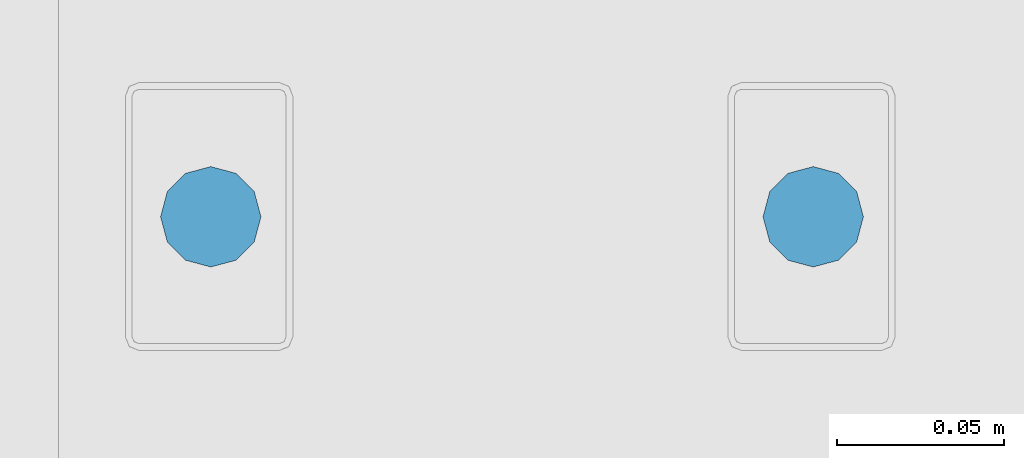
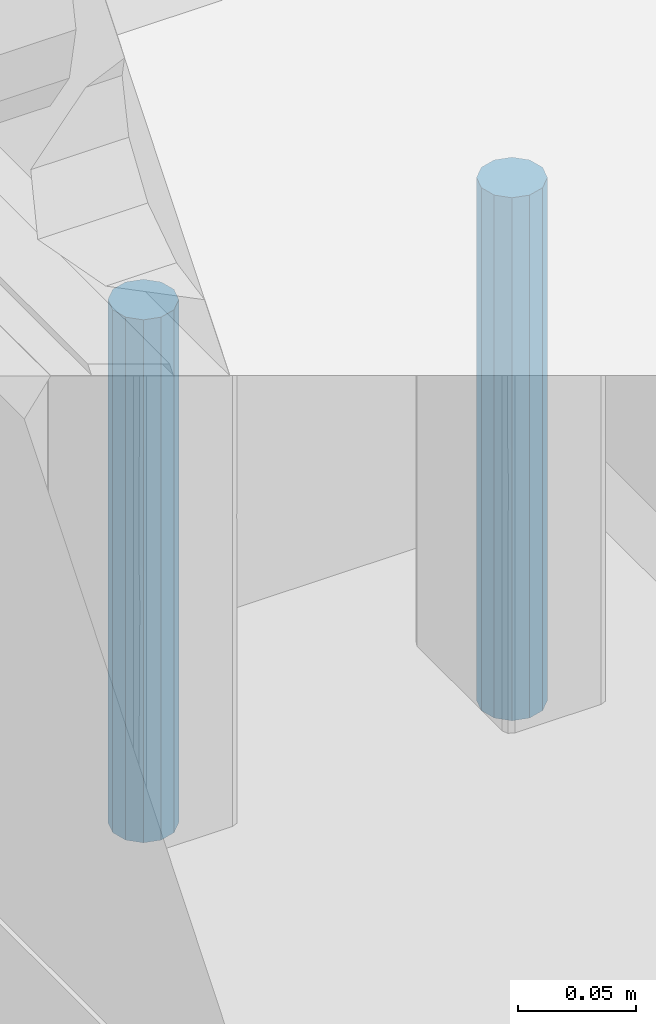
# One storey, part 194 of 230: 2 beams.
"""IFC4X3_ADD2 building model written with IfcOpenShell, lengths in millimetres."""

from ifc_helpers import new_model, si_unit, direction, origin_with_axes, place, context, subcontext, project, spatial, polygons, element, save


model = new_model("IFC4X3_ADD2")

# Units and contexts
model_context = context("Model", 3, precision=1e-05, world=origin_with_axes(), true_north=direction((0.0, 1.0)))
body_context = subcontext(model_context, "Body", "Model", "MODEL_VIEW")
ifc_project = project(units=[si_unit("LENGTHUNIT", "METRE", prefix="MILLI"), si_unit("AREAUNIT", "SQUARE_METRE"), si_unit("VOLUMEUNIT", "CUBIC_METRE"), si_unit("PLANEANGLEUNIT", "RADIAN"), si_unit("TIMEUNIT", "SECOND"), si_unit("MASSUNIT", "GRAM")], contexts=[model_context])

# Site, building, storey
site_placement = place(None, origin_with_axes())
site = spatial("IfcSite", under=ifc_project, at=site_placement, Name="Site", CompositionType="ELEMENT")
building_placement = place(site_placement, origin_with_axes())
building = spatial("IfcBuilding", under=site, at=building_placement, Name="IFC Building Story")
storey_placement = place(building_placement, origin_with_axes())
storey = spatial("IfcBuildingStorey", under=building, at=storey_placement, Name="ETAGE 00 (0)", Elevation=0.0)

# Beams
beam_1_placement = place(storey_placement, origin_with_axes())
element("IfcBeam", 1, at=beam_1_placement, inside=storey, Name="SD11", ObjectType="D30", context=body_context, shape_type="Tessellation", body=[
    polygons([(48386.1886362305, 8390.000610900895, 3960.0), (48386.1886362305, 8390.000610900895, 3690.0), (48388.19825517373, 8382.500610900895, 3690.0), (48388.19825517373, 8382.500610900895, 3960.0), (48393.6886362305, 8377.010229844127, 3690.0), (48393.6886362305, 8377.010229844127, 3960.0), (48401.18863623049, 8375.00061090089, 3690.0), (48401.18863623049, 8375.00061090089, 3960.0), (48408.68863623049, 8377.010229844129, 3690.0), (48408.68863623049, 8377.010229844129, 3960.0), (48414.17901728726, 8382.500610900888, 3690.0), (48414.17901728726, 8382.500610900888, 3960.0), (48416.1886362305, 8390.000610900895, 3690.0), (48416.1886362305, 8390.000610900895, 3960.0), (48414.17901728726, 8397.500610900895, 3690.0), (48414.17901728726, 8397.500610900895, 3960.0), (48408.68863623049, 8402.990991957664, 3690.0), (48408.68863623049, 8402.990991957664, 3960.0), (48401.18863623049, 8405.00061090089, 3690.0), (48401.18863623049, 8405.00061090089, 3960.0), (48393.6886362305, 8402.99099195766, 3690.0), (48393.6886362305, 8402.99099195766, 3960.0), (48388.19825517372, 8397.500610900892, 3690.0), (48388.19825517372, 8397.500610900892, 3960.0)], [[[1, 2, 3, 4]], [[4, 3, 5, 6]], [[6, 5, 7, 8]], [[8, 7, 9, 10]], [[10, 9, 11, 12]], [[12, 11, 13, 14]], [[14, 13, 15, 16]], [[16, 15, 17, 18]], [[18, 17, 19, 20]], [[20, 19, 21, 22]], [[22, 21, 23, 24]], [[24, 23, 2, 1]], [[4, 6, 8]], [[4, 8, 10]], [[4, 10, 12]], [[4, 12, 14]], [[4, 14, 16]], [[4, 16, 18]], [[4, 18, 20]], [[4, 20, 22]], [[4, 22, 24]], [[4, 24, 1]], [[2, 23, 21]], [[2, 21, 19]], [[2, 19, 17]], [[2, 17, 15]], [[2, 15, 13]], [[2, 13, 11]], [[2, 11, 9]], [[2, 9, 7]], [[2, 7, 5]], [[2, 5, 3]]]),
])
beam_2_placement = place(storey_placement, origin_with_axes())
element("IfcBeam", 2, at=beam_2_placement, inside=storey, Name="SD11", ObjectType="D30", context=body_context, shape_type="Tessellation", body=[
    polygons([(48206.1886362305, 8390.000610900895, 3960.0), (48206.1886362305, 8390.000610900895, 3690.0), (48208.19825517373, 8382.500610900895, 3690.0), (48208.19825517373, 8382.500610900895, 3960.0), (48213.6886362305, 8377.010229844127, 3690.0), (48213.6886362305, 8377.010229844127, 3960.0), (48221.18863623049, 8375.00061090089, 3690.0), (48221.18863623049, 8375.00061090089, 3960.0), (48228.68863623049, 8377.010229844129, 3690.0), (48228.68863623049, 8377.010229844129, 3960.0), (48234.17901728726, 8382.500610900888, 3690.0), (48234.17901728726, 8382.500610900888, 3960.0), (48236.1886362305, 8390.000610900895, 3690.0), (48236.1886362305, 8390.000610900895, 3960.0), (48234.17901728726, 8397.500610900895, 3690.0), (48234.17901728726, 8397.500610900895, 3960.0), (48228.68863623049, 8402.990991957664, 3690.0), (48228.68863623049, 8402.990991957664, 3960.0), (48221.18863623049, 8405.00061090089, 3690.0), (48221.18863623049, 8405.00061090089, 3960.0), (48213.6886362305, 8402.99099195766, 3690.0), (48213.6886362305, 8402.99099195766, 3960.0), (48208.19825517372, 8397.500610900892, 3690.0), (48208.19825517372, 8397.500610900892, 3960.0)], [[[1, 2, 3, 4]], [[4, 3, 5, 6]], [[6, 5, 7, 8]], [[8, 7, 9, 10]], [[10, 9, 11, 12]], [[12, 11, 13, 14]], [[14, 13, 15, 16]], [[16, 15, 17, 18]], [[18, 17, 19, 20]], [[20, 19, 21, 22]], [[22, 21, 23, 24]], [[24, 23, 2, 1]], [[4, 6, 8]], [[4, 8, 10]], [[4, 10, 12]], [[4, 12, 14]], [[4, 14, 16]], [[4, 16, 18]], [[4, 18, 20]], [[4, 20, 22]], [[4, 22, 24]], [[4, 24, 1]], [[2, 23, 21]], [[2, 21, 19]], [[2, 19, 17]], [[2, 17, 15]], [[2, 15, 13]], [[2, 13, 11]], [[2, 11, 9]], [[2, 9, 7]], [[2, 7, 5]], [[2, 5, 3]]]),
])

save(model, "model.ifc")
